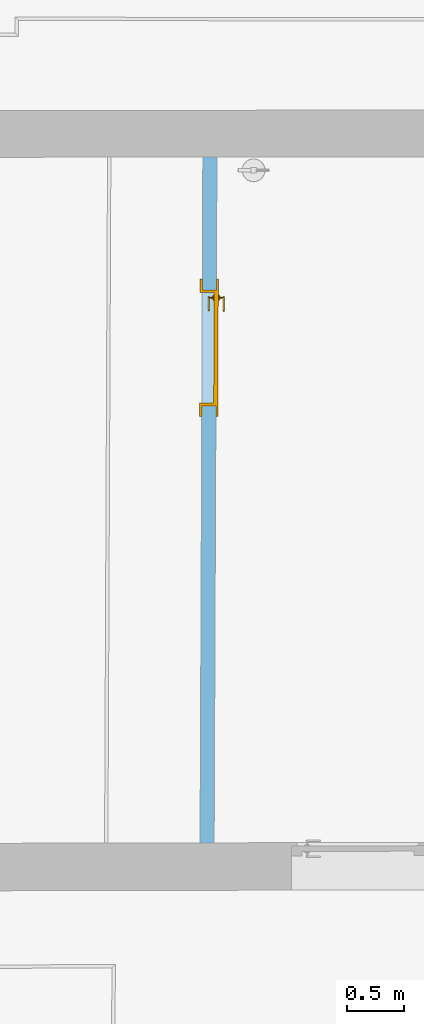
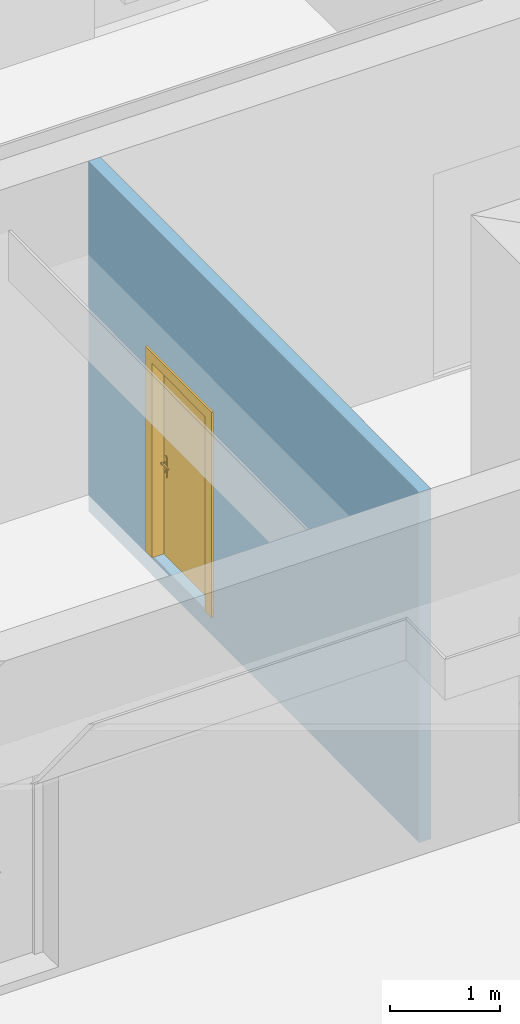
# One storey, part 69 of 158: 1 door, 1 opening, plus 1 element that does not belong to this part.
"""IFC2X3 building model written with IfcOpenShell, lengths in metres."""

from ifc_helpers import new_model, entity, si_unit, converted_unit, derived_unit, money_unit, direction, frame, origin_with_axes, origin_2d_with_axis, place, context, subcontext, project, spatial, polyline, rectangle, outline, extrude, faceted_brep, material, layer, layer_set, layer_usage, type_object, element, fill, save


model = new_model("IFC2X3")

# Units and contexts
model_context = context("Model", 3, precision=1e-05, world=origin_with_axes(), true_north=direction((0.0, 1.0)))
body_context = subcontext(model_context, "Body", "Model", "MODEL_VIEW")
ifc_project = project(units=[si_unit("LENGTHUNIT", "METRE"), si_unit("AREAUNIT", "SQUARE_METRE"), si_unit("VOLUMEUNIT", "CUBIC_METRE"), converted_unit("PLANEANGLEUNIT", "DEGREE", entity("IfcPlaneAngleMeasure", 0.0174532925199), si_unit("PLANEANGLEUNIT", "RADIAN"), dimensions=[0, 0, 0, 0, 0, 0, 0]), money_unit("EUR"), converted_unit("TIMEUNIT", "Year", entity("IfcTimeMeasure", 31556926.0), si_unit("TIMEUNIT", "SECOND"), dimensions=[0, 0, 1, 0, 0, 0, 0]), si_unit("MASSUNIT", "GRAM", prefix="KILO"), si_unit("THERMODYNAMICTEMPERATUREUNIT", "DEGREE_CELSIUS"), si_unit("LUMINOUSINTENSITYUNIT", "LUMEN"), si_unit("ENERGYUNIT", "JOULE", prefix="MEGA"), derived_unit("THERMALCONDUCTANCEUNIT", [(si_unit("POWERUNIT", "WATT"), 1), (si_unit("LENGTHUNIT", "METRE"), -1), (si_unit("THERMODYNAMICTEMPERATUREUNIT", "KELVIN"), -1)]), derived_unit("SPECIFICHEATCAPACITYUNIT", [(si_unit("ENERGYUNIT", "JOULE"), 1), (si_unit("MASSUNIT", "GRAM", prefix="KILO"), -1), (si_unit("THERMODYNAMICTEMPERATUREUNIT", "KELVIN"), -1)]), derived_unit("MASSDENSITYUNIT", [(si_unit("MASSUNIT", "GRAM", prefix="KILO"), 1), (si_unit("VOLUMEUNIT", "CUBIC_METRE"), -1)])], contexts=[model_context])

# Site, building, storey
site_placement = place(None, origin_with_axes())
site = spatial("IfcSite", under=ifc_project, at=site_placement, Name="Gelände", CompositionType="ELEMENT")
building_placement = place(site_placement, origin_with_axes())
building = spatial("IfcBuilding", under=site, at=building_placement, Name="Gebäude", CompositionType="ELEMENT")
storey_placement = place(building_placement, origin_with_axes())
storey = spatial("IfcBuildingStorey", under=building, at=storey_placement, Name="ERDGESCHOSS", CompositionType="ELEMENT", Elevation=0.0)

# Wall, opening, door
ifc_material = material(Name="05_ALLGEMEIN - TRAGENDE BAUTEILE")
ifc_layer = layer(ifc_material, 0.125, ventilated="UNKNOWN")
ifc_layer_set = layer_set([ifc_layer], Name="05_ALLGEMEIN - TRAGENDE BAUTEILE 0.125")
ifc_layer_usage = layer_usage(ifc_layer_set, "AXIS2", "NEGATIVE", 0.125)
wall_type = type_object("IfcWallType", Name="05_ALLGEMEIN - TRAGENDE BAUTEILE 125", PredefinedType="ELEMENTEDWALL")
wall_placement = place(storey_placement, frame((-20.6802197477, 13.188692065, -0.295), z_axis=(0.0, 0.0, 1.0), x_axis=(0.00403223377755, 0.999991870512, 0.0)))
wall = element("IfcWallStandardCase", 1, at=wall_placement, inside=storey, type_object=wall_type, material=ifc_layer_usage, Name="Wand-039", ObjectType="ELEMENTEDWALL", context=body_context, shape_type="SweptSolid", body=[
    extrude(outline(polyline([(0.0, 0.0), (6.06584373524, 0.0), (6.06526256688, 0.125), (-0.000780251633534, 0.125), (0.0, 0.0)])), origin_with_axes(), (0.0, 0.0, 1.0), 3.895),
])
opening_placement = place(wall_placement, frame((4.37872581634, 0.0, 0.217311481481), z_axis=(0.0, 0.0, 1.0), x_axis=(1.0, 0.0, 0.0)))
opening = element("IfcOpeningElement", 2, at=opening_placement, cuts=wall, Name="Tür-022", context=body_context, shape_type="SweptSolid", body=[
    extrude(rectangle(XDim=1.02646512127, YDim=2.188924, at=origin_2d_with_axis()), frame((0.0, 0.125, 1.094462), z_axis=(0.0, -1.0, 0.0), x_axis=(-1.0, 0.0, 0.0)), (0.0, 0.0, 1.0), 0.375),
])
door_style = type_object("IfcDoorStyle", Name="Blockrahmentür 1-Fl 25", ConstructionType="NOTDEFINED", OperationType="SINGLE_SWING_RIGHT", ParameterTakesPrecedence=False, Sizeable=False)
door_placement = place(opening_placement, frame((0.488232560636, 0.0, 0.0), z_axis=(0.0, 0.0, 1.0), x_axis=(-1.0, 0.0, 0.0)))
door = element("IfcDoor", 3, at=door_placement, inside=storey, type_object=door_style, Name="Tür-022", ObjectType="NOTDEFINED", OverallHeight=2.18892, OverallWidth=1.02647, context=body_context, shape_type="Brep", body=[
    faceted_brep([(1.00146512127, -0.145, 0.0), (1.00146512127, -0.02, 0.0), (1.00146512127, -0.02, 2.188924), (1.00146512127, -0.145, 2.188924), (0.976465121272, -0.145, 0.0), (0.976465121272, -0.02, 0.0), (0.976465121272, -0.02, 2.163924), (0.603332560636, -0.02, 2.163924), (0.488332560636, -0.02, 2.163924), (0.0, -0.02, 2.163924), (0.0, -0.02, 0.0), (-0.025, -0.02, 0.0), (-0.025, -0.02, 2.188924), (-0.025, -0.145, 2.188924), (-0.025, -0.145, 0.0), (0.0, -0.145, 0.0), (0.0, -0.145, 2.163924), (0.488332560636, -0.145, 2.163924), (0.603332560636, -0.145, 2.163924), (0.976465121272, -0.145, 2.163924)], [[[0, 1, 2, 3]], [[4, 5, 1, 0]], [[1, 5, 6, 7, 8, 9, 10, 11, 12, 2]], [[3, 2, 12, 13]], [[0, 3, 13, 14, 15, 16, 17, 18, 19, 4]], [[19, 6, 5, 4]], [[18, 7, 6, 19]], [[17, 8, 7, 18]], [[16, 9, 8, 17]], [[15, 10, 9, 16]], [[14, 11, 10, 15]], [[13, 12, 11, 14]]]),
    faceted_brep([(1.00146512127, -0.02, 0.0), (1.00146512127, 0.02, 0.0), (1.00146512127, 0.02, 2.188924), (1.00146512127, -0.02, 2.188924), (0.991465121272, -0.02, 0.0), (0.991465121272, 0.02, 0.0), (0.991465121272, 0.02, 2.178924), (0.588332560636, 0.02, 2.178924), (0.503332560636, 0.02, 2.178924), (-0.015, 0.02, 2.178924), (-0.015, 0.02, 0.0), (-0.025, 0.02, 0.0), (-0.025, 0.02, 2.188924), (-0.025, -0.02, 2.188924), (-0.025, -0.02, 0.0), (-0.015, -0.02, 0.0), (-0.015, -0.02, 2.178924), (0.503332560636, -0.02, 2.178924), (0.588332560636, -0.02, 2.178924), (0.991465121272, -0.02, 2.178924)], [[[0, 1, 2, 3]], [[4, 5, 1, 0]], [[1, 5, 6, 7, 8, 9, 10, 11, 12, 2]], [[3, 2, 12, 13]], [[0, 3, 13, 14, 15, 16, 17, 18, 19, 4]], [[19, 6, 5, 4]], [[18, 7, 6, 19]], [[17, 8, 7, 18]], [[16, 9, 8, 17]], [[15, 10, 9, 16]], [[14, 11, 10, 15]], [[13, 12, 11, 14]]]),
    faceted_brep([(1.09646512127, -0.145, 0.0), (1.09646512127, -0.125, 0.0), (1.09646512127, -0.125, 2.283924), (1.09646512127, -0.145, 2.283924), (1.00146512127, -0.145, 0.0), (1.00146512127, -0.125, 0.0), (1.00146512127, -0.125, 2.188924), (-0.025, -0.125, 2.188924), (-0.025, -0.125, 0.0), (-0.12, -0.125, 0.0), (-0.12, -0.125, 2.283924), (-0.12, -0.145, 2.283924), (-0.12, -0.145, 0.0), (-0.025, -0.145, 0.0), (-0.025, -0.145, 2.188924), (1.00146512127, -0.145, 2.188924)], [[[0, 1, 2, 3]], [[4, 5, 1, 0]], [[1, 5, 6, 7, 8, 9, 10, 2]], [[3, 2, 10, 11]], [[0, 3, 11, 12, 13, 14, 15, 4]], [[15, 6, 5, 4]], [[14, 7, 6, 15]], [[13, 8, 7, 14]], [[12, 9, 8, 13]], [[11, 10, 9, 12]]]),
    faceted_brep([(1.09646512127, 0.0, 0.0), (1.09646512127, 0.02, 0.0), (1.09646512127, 0.02, 2.283924), (1.09646512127, 0.0, 2.283924), (1.00146512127, 0.0, 0.0), (1.00146512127, 0.02, 0.0), (1.00146512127, 0.02, 2.188924), (-0.025, 0.02, 2.188924), (-0.025, 0.02, 0.0), (-0.12, 0.02, 0.0), (-0.12, 0.02, 2.283924), (-0.12, 0.0, 2.283924), (-0.12, 0.0, 0.0), (-0.025, 0.0, 0.0), (-0.025, 0.0, 2.188924), (1.00146512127, 0.0, 2.188924)], [[[0, 1, 2, 3]], [[4, 5, 1, 0]], [[1, 5, 6, 7, 8, 9, 10, 2]], [[3, 2, 10, 11]], [[0, 3, 11, 12, 13, 14, 15, 4]], [[15, 6, 5, 4]], [[14, 7, 6, 15]], [[13, 8, 7, 14]], [[12, 9, 8, 13]], [[11, 10, 9, 12]]]),
    faceted_brep([(0.991465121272, 0.017, 0.0), (-0.015, 0.017, 0.0), (-0.015, 0.017, 2.178924), (0.991465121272, 0.017, 2.178924), (0.991465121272, -0.02, 0.0), (-0.015, -0.02, 0.0), (-0.015, -0.02, 2.178924), (0.991465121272, -0.02, 2.178924)], [[[0, 1, 2, 3]], [[1, 0, 4, 5]], [[2, 1, 5, 6]], [[3, 2, 6, 7]], [[0, 3, 7, 4]], [[5, 4, 7, 6]]]),
    faceted_brep([(0.0402977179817, -0.06, 1.05647213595), (0.045, -0.06, 1.058), (0.045, -0.04, 1.058), (0.0402977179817, -0.04, 1.05647213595), (0.0373915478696, -0.06, 1.05247213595), (0.0373915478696, -0.06, 1.04752786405), (0.0402977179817, -0.06, 1.04352786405), (0.045, -0.06, 1.042), (0.0497022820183, -0.06, 1.04352786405), (0.0526084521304, -0.06, 1.04752786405), (0.0526084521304, -0.06, 1.05247213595), (0.0497022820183, -0.06, 1.05647213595), (0.0497022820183, -0.04, 1.05647213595), (0.045, -0.038, 1.06), (0.0391221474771, -0.038, 1.05809016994), (0.0373915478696, -0.04, 1.05247213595), (0.0373915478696, -0.04, 1.04752786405), (0.0402977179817, -0.04, 1.04352786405), (0.045, -0.04, 1.042), (0.0497022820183, -0.04, 1.04352786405), (0.0526084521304, -0.04, 1.04752786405), (0.0526084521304, -0.04, 1.05247213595), (0.0508778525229, -0.038, 1.05809016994), (0.045, -0.03, 1.06), (0.0391221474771, -0.03, 1.05809016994), (0.035489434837, -0.038, 1.05309016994), (0.035489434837, -0.038, 1.04690983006), (0.0391221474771, -0.038, 1.04190983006), (0.045, -0.038, 1.04), (0.0508778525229, -0.038, 1.04190983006), (0.054510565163, -0.038, 1.04690983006), (0.054510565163, -0.038, 1.05309016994), (0.0508778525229, -0.03, 1.05809016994), (0.054510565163, -0.03, 1.05309016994), (0.054510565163, -0.03, 1.04690983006), (0.0508778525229, -0.03, 1.04190983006), (0.045, -0.03, 1.04), (0.0391221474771, -0.03, 1.04190983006), (0.035489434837, -0.03, 1.04690983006), (0.035489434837, -0.03, 1.05309016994)], [[[0, 1, 2, 3]], [[1, 0, 4, 5, 6, 7, 8, 9, 10, 11]], [[1, 11, 12, 2]], [[3, 2, 13, 14]], [[4, 0, 3, 15]], [[5, 4, 15, 16]], [[6, 5, 16, 17]], [[7, 6, 17, 18]], [[8, 7, 18, 19]], [[9, 8, 19, 20]], [[10, 9, 20, 21]], [[11, 10, 21, 12]], [[2, 12, 22, 13]], [[14, 13, 23, 24]], [[15, 3, 14, 25]], [[16, 15, 25, 26]], [[17, 16, 26, 27]], [[18, 17, 27, 28]], [[19, 18, 28, 29]], [[20, 19, 29, 30]], [[21, 20, 30, 31]], [[12, 21, 31, 22]], [[13, 22, 32, 23]], [[23, 32, 33, 34, 35, 36, 37, 38, 39, 24]], [[25, 14, 24, 39]], [[26, 25, 39, 38]], [[27, 26, 38, 37]], [[28, 27, 37, 36]], [[29, 28, 36, 35]], [[30, 29, 35, 34]], [[31, 30, 34, 33]], [[22, 31, 33, 32]]]),
    faceted_brep([(0.0571883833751, -0.03, 1.11759695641), (0.0494435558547, -0.03, 1.12195567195), (0.0405564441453, -0.03, 1.12195567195), (0.0328116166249, -0.03, 1.11759695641), (0.0282, -0.03, 1.11), (0.0225, -0.03, 1.11), (0.0225, -0.03, 0.89), (0.0282, -0.03, 0.89), (0.0328116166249, -0.03, 0.882403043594), (0.0405564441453, -0.03, 0.878044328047), (0.0494435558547, -0.03, 0.878044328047), (0.0571883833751, -0.03, 0.882403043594), (0.0618, -0.03, 0.89), (0.0675, -0.03, 0.89), (0.0675, -0.03, 1.11), (0.0618, -0.03, 1.11), (0.045, -0.03, 0.967425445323), (0.050375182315, -0.03, 0.965143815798), (0.0524678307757, -0.03, 0.959692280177), (0.05, -0.03, 0.9544), (0.05, -0.03, 0.9375), (0.0485355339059, -0.03, 0.933964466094), (0.045, -0.03, 0.9325), (0.0414644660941, -0.03, 0.933964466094), (0.04, -0.03, 0.9375), (0.04, -0.03, 0.9544), (0.0375321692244, -0.03, 0.959692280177), (0.0396248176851, -0.03, 0.965143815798), (0.0571883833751, -0.02, 1.11759695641), (0.0494435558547, -0.02, 1.12195567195), (0.0405564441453, -0.02, 1.12195567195), (0.0328116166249, -0.02, 1.11759695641), (0.0282, -0.02, 1.11), (0.0225, -0.02, 1.11), (0.0225, -0.02, 0.89), (0.0282, -0.02, 0.89), (0.0328116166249, -0.02, 0.882403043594), (0.0405564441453, -0.02, 0.878044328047), (0.0494435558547, -0.02, 0.878044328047), (0.0571883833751, -0.02, 0.882403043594), (0.0618, -0.02, 0.89), (0.0675, -0.02, 0.89), (0.0675, -0.02, 1.11), (0.0618, -0.02, 1.11), (0.045, -0.02, 0.967425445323), (0.050375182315, -0.02, 0.965143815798), (0.0524678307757, -0.02, 0.959692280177), (0.05, -0.02, 0.9544), (0.05, -0.02, 0.9375), (0.0485355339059, -0.02, 0.933964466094), (0.045, -0.02, 0.9325), (0.0414644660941, -0.02, 0.933964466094), (0.04, -0.02, 0.9375), (0.04, -0.02, 0.9544), (0.0375321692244, -0.02, 0.959692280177), (0.039624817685, -0.02, 0.965143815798)], [[[0, 1, 2, 3, 4, 5, 6, 7, 8, 9, 10, 11, 12, 13, 14, 15], [16, 17, 18, 19, 20, 21, 22, 23, 24, 25, 26, 27]], [[1, 0, 28, 29]], [[2, 1, 29, 30]], [[3, 2, 30, 31]], [[4, 3, 31, 32]], [[5, 4, 32, 33]], [[6, 5, 33, 34]], [[7, 6, 34, 35]], [[8, 7, 35, 36]], [[9, 8, 36, 37]], [[10, 9, 37, 38]], [[11, 10, 38, 39]], [[12, 11, 39, 40]], [[13, 12, 40, 41]], [[14, 13, 41, 42]], [[15, 14, 42, 43]], [[0, 15, 43, 28]], [[17, 16, 44, 45]], [[18, 17, 45, 46]], [[19, 18, 46, 47]], [[19, 47, 48, 20]], [[20, 48, 49, 21]], [[21, 49, 50, 22]], [[22, 50, 51, 23]], [[23, 51, 52, 24]], [[53, 25, 24, 52]], [[26, 25, 53, 54]], [[27, 26, 54, 55]], [[16, 27, 55, 44]], [[40, 39, 38, 37, 36, 35, 34, 33, 32, 31, 30, 29, 28, 43, 42, 41], [54, 53, 52, 51, 50, 49, 48, 47, 46, 45, 44, 55]]]),
    faceted_brep([(0.159253, -0.06, 1.057158), (0.159253, -0.075, 1.057158), (0.159254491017, -0.075, 1.05719388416), (0.159254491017, -0.06, 1.05719388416), (0.132225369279, -0.06, 1.06432652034), (0.132225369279, -0.075, 1.06432652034), (0.104397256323, -0.075, 1.06706086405), (0.0764912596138, -0.075, 1.06529002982), (0.049232, -0.075, 1.05906), (0.0428294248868, -0.075, 1.05976125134), (0.0373273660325, -0.075, 1.05641280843), (0.0350084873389, -0.075, 1.05040385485), (0.0368348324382, -0.075, 1.04422735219), (0.0420486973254, -0.075, 1.04044577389), (0.0484869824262, -0.075, 1.04062800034), (0.0534786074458, -0.075, 1.04469843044), (0.053458, -0.075, 1.044666), (0.0787467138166, -0.075, 1.05019878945), (0.104589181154, -0.075, 1.05171460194), (0.130351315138, -0.075, 1.04917624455), (0.155401, -0.075, 1.042646), (0.160944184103, -0.075, 1.04356849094), (0.16430572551, -0.075, 1.04807159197), (0.163614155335, -0.075, 1.05364829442), (0.163614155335, -0.06, 1.05364829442), (0.16430572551, -0.06, 1.04807159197), (0.160944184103, -0.06, 1.04356849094), (0.155401, -0.06, 1.042646), (0.130351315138, -0.06, 1.04917624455), (0.104589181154, -0.06, 1.05171460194), (0.0787467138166, -0.06, 1.05019878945), (0.053458, -0.06, 1.044666), (0.0534786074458, -0.06, 1.04469843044), (0.0484869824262, -0.06, 1.04062800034), (0.0420486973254, -0.06, 1.04044577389), (0.0368348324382, -0.06, 1.04422735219), (0.0350084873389, -0.06, 1.05040385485), (0.0373273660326, -0.06, 1.05641280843), (0.0428294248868, -0.06, 1.05976125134), (0.049232, -0.06, 1.05906), (0.0764912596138, -0.06, 1.06529002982), (0.104397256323, -0.06, 1.06706086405)], [[[0, 1, 2, 3]], [[4, 5, 1, 0]], [[1, 5, 6, 7, 8, 9, 10, 11, 12, 13, 14, 15, 16, 17, 18, 19, 20, 21, 22, 23, 2]], [[3, 2, 23, 24]], [[0, 3, 24, 25, 26, 27, 28, 29, 30, 31, 32, 33, 34, 35, 36, 37, 38, 39, 40, 41, 4]], [[41, 6, 5, 4]], [[40, 7, 6, 41]], [[39, 8, 7, 40]], [[38, 9, 8, 39]], [[37, 10, 9, 38]], [[36, 11, 10, 37]], [[35, 12, 11, 36]], [[34, 13, 12, 35]], [[33, 14, 13, 34]], [[32, 15, 14, 33]], [[31, 16, 15, 32]], [[30, 17, 16, 31]], [[29, 18, 17, 30]], [[28, 19, 18, 29]], [[27, 20, 19, 28]], [[26, 21, 20, 27]], [[25, 22, 21, 26]], [[24, 23, 22, 25]]]),
    faceted_brep([(0.0402977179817, 0.057, 1.05647213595), (0.0402977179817, 0.037, 1.05647213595), (0.045, 0.037, 1.058), (0.045, 0.057, 1.058), (0.0373915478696, 0.057, 1.05247213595), (0.0373915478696, 0.037, 1.05247213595), (0.0391221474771, 0.035, 1.05809016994), (0.045, 0.035, 1.06), (0.0497022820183, 0.037, 1.05647213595), (0.0497022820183, 0.057, 1.05647213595), (0.0526084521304, 0.057, 1.05247213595), (0.0526084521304, 0.057, 1.04752786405), (0.0497022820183, 0.057, 1.04352786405), (0.045, 0.057, 1.042), (0.0402977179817, 0.057, 1.04352786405), (0.0373915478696, 0.057, 1.04752786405), (0.0373915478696, 0.037, 1.04752786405), (0.0354894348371, 0.035, 1.05309016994), (0.0391221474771, 0.027, 1.05809016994), (0.045, 0.027, 1.06), (0.0508778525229, 0.035, 1.05809016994), (0.0526084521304, 0.037, 1.05247213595), (0.0526084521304, 0.037, 1.04752786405), (0.0497022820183, 0.037, 1.04352786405), (0.045, 0.037, 1.042), (0.0402977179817, 0.037, 1.04352786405), (0.0354894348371, 0.035, 1.04690983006), (0.0354894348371, 0.027, 1.05309016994), (0.0354894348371, 0.027, 1.04690983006), (0.0391221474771, 0.027, 1.04190983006), (0.045, 0.027, 1.04), (0.0508778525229, 0.027, 1.04190983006), (0.054510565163, 0.027, 1.04690983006), (0.054510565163, 0.027, 1.05309016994), (0.0508778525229, 0.027, 1.05809016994), (0.054510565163, 0.035, 1.05309016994), (0.054510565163, 0.035, 1.04690983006), (0.0508778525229, 0.035, 1.04190983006), (0.045, 0.035, 1.04), (0.0391221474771, 0.035, 1.04190983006)], [[[0, 1, 2, 3]], [[4, 5, 1, 0]], [[1, 6, 7, 2]], [[3, 2, 8, 9]], [[3, 9, 10, 11, 12, 13, 14, 15, 4, 0]], [[15, 16, 5, 4]], [[5, 17, 6, 1]], [[6, 18, 19, 7]], [[2, 7, 20, 8]], [[9, 8, 21, 10]], [[10, 21, 22, 11]], [[11, 22, 23, 12]], [[12, 23, 24, 13]], [[13, 24, 25, 14]], [[14, 25, 16, 15]], [[16, 26, 17, 5]], [[17, 27, 18, 6]], [[19, 18, 27, 28, 29, 30, 31, 32, 33, 34]], [[7, 19, 34, 20]], [[8, 20, 35, 21]], [[21, 35, 36, 22]], [[22, 36, 37, 23]], [[23, 37, 38, 24]], [[24, 38, 39, 25]], [[25, 39, 26, 16]], [[26, 28, 27, 17]], [[39, 29, 28, 26]], [[38, 30, 29, 39]], [[37, 31, 30, 38]], [[36, 32, 31, 37]], [[35, 33, 32, 36]], [[20, 34, 33, 35]]]),
    faceted_brep([(0.0571883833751, 0.017, 1.11759695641), (0.0494435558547, 0.017, 1.12195567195), (0.0405564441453, 0.017, 1.12195567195), (0.0328116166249, 0.017, 1.11759695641), (0.0282, 0.017, 1.11), (0.0225, 0.017, 1.11), (0.0225, 0.017, 0.89), (0.0282, 0.017, 0.89), (0.0328116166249, 0.017, 0.882403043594), (0.0405564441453, 0.017, 0.878044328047), (0.0494435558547, 0.017, 0.878044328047), (0.0571883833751, 0.017, 0.882403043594), (0.0618, 0.017, 0.89), (0.0675, 0.017, 0.89), (0.0675, 0.017, 1.11), (0.0618, 0.017, 1.11), (0.045, 0.017, 0.967425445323), (0.050375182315, 0.017, 0.965143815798), (0.0524678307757, 0.017, 0.959692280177), (0.05, 0.017, 0.9544), (0.05, 0.017, 0.9375), (0.0485355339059, 0.017, 0.933964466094), (0.045, 0.017, 0.9325), (0.0414644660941, 0.017, 0.933964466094), (0.04, 0.017, 0.9375), (0.04, 0.017, 0.9544), (0.0375321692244, 0.017, 0.959692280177), (0.039624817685, 0.017, 0.965143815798), (0.0494435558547, 0.027, 1.12195567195), (0.0571883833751, 0.027, 1.11759695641), (0.0405564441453, 0.027, 1.12195567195), (0.0328116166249, 0.027, 1.11759695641), (0.0282, 0.027, 1.11), (0.0225, 0.027, 1.11), (0.0225, 0.027, 0.89), (0.0282, 0.027, 0.89), (0.0328116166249, 0.027, 0.882403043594), (0.0405564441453, 0.027, 0.878044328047), (0.0494435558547, 0.027, 0.878044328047), (0.0571883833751, 0.027, 0.882403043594), (0.0618, 0.027, 0.89), (0.0675, 0.027, 0.89), (0.0675, 0.027, 1.11), (0.0618, 0.027, 1.11), (0.045, 0.027, 0.967425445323), (0.050375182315, 0.027, 0.965143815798), (0.0524678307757, 0.027, 0.959692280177), (0.05, 0.027, 0.9544), (0.05, 0.027, 0.9375), (0.0485355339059, 0.027, 0.933964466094), (0.045, 0.027, 0.9325), (0.0414644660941, 0.027, 0.933964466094), (0.04, 0.027, 0.9375), (0.04, 0.027, 0.9544), (0.0375321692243, 0.027, 0.959692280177), (0.039624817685, 0.027, 0.965143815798)], [[[0, 1, 2, 3, 4, 5, 6, 7, 8, 9, 10, 11, 12, 13, 14, 15], [16, 17, 18, 19, 20, 21, 22, 23, 24, 25, 26, 27]], [[28, 1, 0, 29]], [[30, 2, 1, 28]], [[31, 3, 2, 30]], [[32, 4, 3, 31]], [[33, 5, 4, 32]], [[34, 6, 5, 33]], [[35, 7, 6, 34]], [[36, 8, 7, 35]], [[37, 9, 8, 36]], [[38, 10, 9, 37]], [[39, 11, 10, 38]], [[40, 12, 11, 39]], [[41, 13, 12, 40]], [[42, 14, 13, 41]], [[43, 15, 14, 42]], [[29, 0, 15, 43]], [[17, 16, 44, 45]], [[18, 17, 45, 46]], [[19, 18, 46, 47]], [[19, 47, 48, 20]], [[20, 48, 49, 21]], [[21, 49, 50, 22]], [[22, 50, 51, 23]], [[23, 51, 52, 24]], [[53, 25, 24, 52]], [[26, 25, 53, 54]], [[27, 26, 54, 55]], [[16, 27, 55, 44]], [[40, 39, 38, 37, 36, 35, 34, 33, 32, 31, 30, 28, 29, 43, 42, 41], [54, 53, 52, 51, 50, 49, 48, 47, 46, 45, 44, 55]]]),
    faceted_brep([(0.159253, 0.057, 1.057158), (0.159254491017, 0.057, 1.05719388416), (0.159254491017, 0.072, 1.05719388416), (0.159253, 0.072, 1.057158), (0.132225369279, 0.057, 1.06432652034), (0.104397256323, 0.057, 1.06706086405), (0.0764912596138, 0.057, 1.06529002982), (0.049232, 0.057, 1.05906), (0.0428294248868, 0.057, 1.05976125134), (0.0373273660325, 0.057, 1.05641280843), (0.0350084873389, 0.057, 1.05040385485), (0.0368348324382, 0.057, 1.04422735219), (0.0420486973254, 0.057, 1.04044577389), (0.0484869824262, 0.057, 1.04062800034), (0.0534786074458, 0.057, 1.04469843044), (0.053458, 0.057, 1.044666), (0.0787467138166, 0.057, 1.05019878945), (0.104589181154, 0.057, 1.05171460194), (0.130351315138, 0.057, 1.04917624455), (0.155401, 0.057, 1.042646), (0.160944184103, 0.057, 1.04356849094), (0.16430572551, 0.057, 1.04807159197), (0.163614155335, 0.057, 1.05364829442), (0.163614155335, 0.072, 1.05364829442), (0.16430572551, 0.072, 1.04807159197), (0.160944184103, 0.072, 1.04356849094), (0.155401, 0.072, 1.042646), (0.130351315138, 0.072, 1.04917624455), (0.104589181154, 0.072, 1.05171460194), (0.0787467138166, 0.072, 1.05019878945), (0.053458, 0.072, 1.044666), (0.0534786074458, 0.072, 1.04469843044), (0.0484869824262, 0.072, 1.04062800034), (0.0420486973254, 0.072, 1.04044577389), (0.0368348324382, 0.072, 1.04422735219), (0.0350084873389, 0.072, 1.05040385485), (0.0373273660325, 0.072, 1.05641280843), (0.0428294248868, 0.072, 1.05976125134), (0.049232, 0.072, 1.05906), (0.0764912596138, 0.072, 1.06529002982), (0.104397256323, 0.072, 1.06706086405), (0.132225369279, 0.072, 1.06432652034)], [[[0, 1, 2, 3]], [[0, 4, 5, 6, 7, 8, 9, 10, 11, 12, 13, 14, 15, 16, 17, 18, 19, 20, 21, 22, 1]], [[1, 22, 23, 2]], [[3, 2, 23, 24, 25, 26, 27, 28, 29, 30, 31, 32, 33, 34, 35, 36, 37, 38, 39, 40, 41]], [[4, 0, 3, 41]], [[5, 4, 41, 40]], [[6, 5, 40, 39]], [[7, 6, 39, 38]], [[8, 7, 38, 37]], [[9, 8, 37, 36]], [[10, 9, 36, 35]], [[11, 10, 35, 34]], [[12, 11, 34, 33]], [[13, 12, 33, 32]], [[14, 13, 32, 31]], [[15, 14, 31, 30]], [[16, 15, 30, 29]], [[17, 16, 29, 28]], [[18, 17, 28, 27]], [[19, 18, 27, 26]], [[20, 19, 26, 25]], [[21, 20, 25, 24]], [[22, 21, 24, 23]]]),
])
fill(opening, door)

save(model, "model.ifc")
